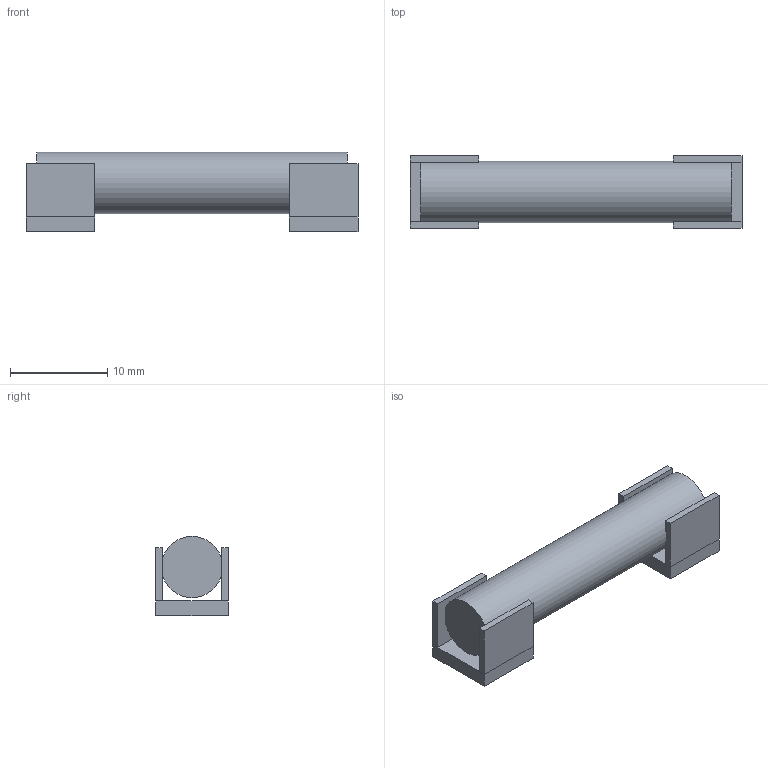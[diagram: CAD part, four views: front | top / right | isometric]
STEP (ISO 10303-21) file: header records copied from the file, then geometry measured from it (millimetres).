
FILE_DESCRIPTION(('Open CASCADE Model'),'2;1');
FILE_NAME('Open CASCADE Shape Model','2000-01-01T00:00:00',('Author'),( 'Open CASCADE'),'Open CASCADE STEP processor 7.9','Open CASCADE 7.9' ,'Unknown');
FILE_SCHEMA((''));
Length unit declared in the file: millimetre
Products named in the file (8): Open CASCADE STEP translator 7.9 1; Open CASCADE STEP translator 7.9 1.1; Open CASCADE STEP translator 7.9 1.2; Open CASCADE STEP translator 7.9 1.3; Open CASCADE STEP translator 7.9 1.4; Open CASCADE STEP translator 7.9 1.5; Open CASCADE STEP translator 7.9 1.6; Open CASCADE STEP translator 7.9 1.7
Assembly tree (7 placements, depth 2):
  Open CASCADE STEP translator 7.9 1
    Open CASCADE STEP translator 7.9 1.1
    Open CASCADE STEP translator 7.9 1.2
    Open CASCADE STEP translator 7.9 1.3
    Open CASCADE STEP translator 7.9 1.4
    Open CASCADE STEP translator 7.9 1.5
    Open CASCADE STEP translator 7.9 1.6
    Open CASCADE STEP translator 7.9 1.7
Bounding box: 34.2 x 7.5 x 8.15 mm (x, y, z)
Volume: 1266.6 mm3; surface area: 1379.2 mm2
Topology: 7 solids, 7 shells, 39 faces, 75 edges, 50 vertices
Faces by surface type: plane 38, cylinder 1
Full cylindrical faces by diameter (mm): 6.3 x1
Entity records: 2070 total; most frequent: CARTESIAN_POINT 322, DIRECTION 321, LINE 221, VECTOR 221, ORIENTED_EDGE 150, PCURVE 150, DEFINITIONAL_REPRESENTATION 150, EDGE_CURVE 75
